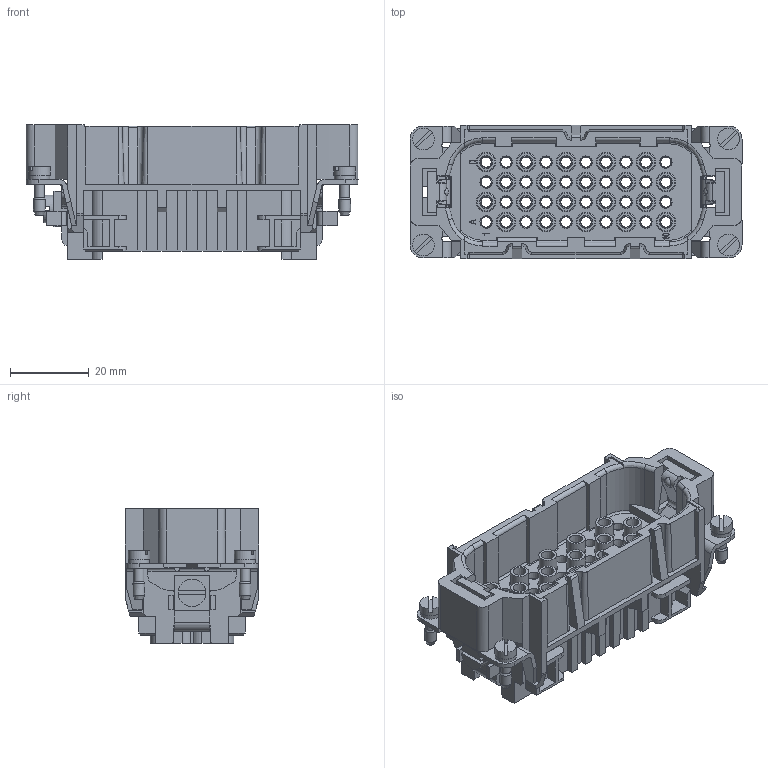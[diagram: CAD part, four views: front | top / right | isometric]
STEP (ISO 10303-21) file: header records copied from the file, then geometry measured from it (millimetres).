
FILE_DESCRIPTION(/* description */ (''),/* implementation_level */ '2;1');
FILE_NAME(/* name */ 'HD-040-M.stp',/* time_stamp */ '2023-10-31T16:43:32+08:00',/* author */ (''),/* organization */ (''),/* preprocessor_version */ 'ST-DEVELOPER v16.7',/* originating_system */ 'SIEMENS PLM Software NX 12.0',/* authorisation */ '');
FILE_SCHEMA (('AUTOMOTIVE_DESIGN { 1 0 10303 214 3 1 1 1 }'));
Length unit declared in the file: millimetre
Products named in the file (1): 09210403001_100094966MOD000C_stp
Bounding box: 84.4 x 33.9 x 34.2 mm (x, y, z)
Volume: 32314.5 mm3; surface area: 28568.3 mm2
Topology: 1 solids, 1 shells, 1103 faces, 2939 edges, 1906 vertices
Faces by surface type: plane 667, cylinder 224, cone 144, torus 33, bspline 20, extrusion 11, sphere 4
Full cylindrical faces by diameter (mm): 0.6 x2, 2.438 x2, 2.5 x6, 2.62 x40, 3 x4, 3.2 x1, 4.6 x20, 5.343 x4, 5.5 x4, 7 x1
Entity records: 36157 total; most frequent: CARTESIAN_POINT 7173, DIRECTION 5385, ORIENTED_EDGE 5252, EDGE_CURVE 2626, VERTEX_POINT 1837, VECTOR 1809, LINE 1798, AXIS2_PLACEMENT_3D 1788
